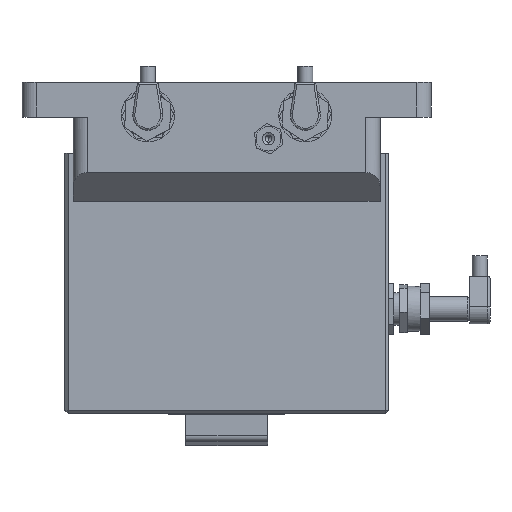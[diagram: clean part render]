
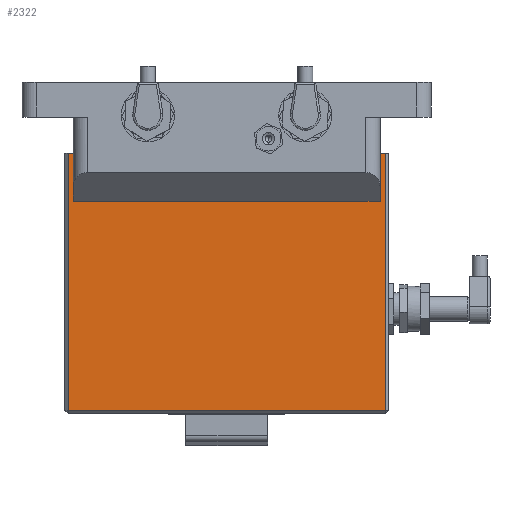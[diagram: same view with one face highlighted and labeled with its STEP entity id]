
A CAD part, front view. The second image highlights one B-rep face of the part: STEP entity #2322.
In plain terms, the highlighted planar face has unit normal (0, -1, 0).
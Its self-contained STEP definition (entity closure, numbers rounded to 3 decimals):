
#258 = VERTEX_POINT ( 'NONE', #9209 ) ;
#262 = VERTEX_POINT ( 'NONE', #9213 ) ;
#263 = VERTEX_POINT ( 'NONE', #9214 ) ;
#265 = VERTEX_POINT ( 'NONE', #9216 ) ;
#613 = EDGE_LOOP ( 'NONE', ( #9860, #9861, #9862, #9863, #9864, #9865, #9866, #9867 ) ) ;
#1340 = LINE ( 'NONE', #2597, #1343 ) ;
#1343 = VECTOR ( 'NONE', #2599, 1000. ) ;
#1368 = LINE ( 'NONE', #2625, #1371 ) ;
#1371 = VECTOR ( 'NONE', #2626, 1000. ) ;
#1549 = EDGE_CURVE ( 'NONE', #11739, #11773, #1340, .T. ) ;
#1563 = EDGE_CURVE ( 'NONE', #11782, #11794, #1368, .T. ) ;
#1577 = EDGE_CURVE ( 'NONE', #11794, #11739, #3341, .T. ) ;
#2085 = AXIS2_PLACEMENT_3D ( 'NONE', #4635, #4639, #4640 ) ;
#2322 = ADVANCED_FACE ( 'NONE', ( #3710 ), #4637, .F. ) ;
#2597 = CARTESIAN_POINT ( 'NONE',  ( -75., -31., -49.5 ) ) ;
#2599 = DIRECTION ( 'NONE',  ( 0., 0., 1. ) ) ;
#2625 = CARTESIAN_POINT ( 'NONE',  ( 75., -31., -49.5 ) ) ;
#2626 = DIRECTION ( 'NONE',  ( 0., 0., -1. ) ) ;
#2653 = CARTESIAN_POINT ( 'NONE',  ( -150., -31., -26.5 ) ) ;
#2654 = DIRECTION ( 'NONE',  ( -1., 0., 0. ) ) ;
#3341 = LINE ( 'NONE', #2653, #3342 ) ;
#3342 = VECTOR ( 'NONE', #2654, 1000. ) ;
#3710 = FACE_OUTER_BOUND ( 'NONE', #613, .T. ) ;
#3780 = VECTOR ( 'NONE', #4790, 1000. ) ;
#3784 = LINE ( 'NONE', #4785, #3788 ) ;
#3786 = LINE ( 'NONE', #4789, #3780 ) ;
#3787 = LINE ( 'NONE', #4792, #3790 ) ;
#3788 = VECTOR ( 'NONE', #4791, 1000. ) ;
#3790 = VECTOR ( 'NONE', #4793, 1000. ) ;
#3792 = LINE ( 'NONE', #4800, #3795 ) ;
#3795 = VECTOR ( 'NONE', #4801, 1000. ) ;
#3798 = LINE ( 'NONE', #4806, #3801 ) ;
#3801 = VECTOR ( 'NONE', #4807, 1000. ) ;
#4635 = CARTESIAN_POINT ( 'NONE',  ( 79., -31., -153.5 ) ) ;
#4637 = PLANE ( 'NONE',  #2085 ) ;
#4639 = DIRECTION ( 'NONE',  ( 0., 1., 0. ) ) ;
#4640 = DIRECTION ( 'NONE',  ( -1., 0., 0. ) ) ;
#4785 = CARTESIAN_POINT ( 'NONE',  ( -77.5, -31., -153.5 ) ) ;
#4789 = CARTESIAN_POINT ( 'NONE',  ( 77.5, -31., -153.5 ) ) ;
#4790 = DIRECTION ( 'NONE',  ( 0., 0., 1. ) ) ;
#4791 = DIRECTION ( 'NONE',  ( 0., 0., -1. ) ) ;
#4792 = CARTESIAN_POINT ( 'NONE',  ( 79., -31., -152. ) ) ;
#4793 = DIRECTION ( 'NONE',  ( 1., 0., 0. ) ) ;
#4800 = CARTESIAN_POINT ( 'NONE',  ( 79., -31., -26. ) ) ;
#4801 = DIRECTION ( 'NONE',  ( -1., 0., 0. ) ) ;
#4806 = CARTESIAN_POINT ( 'NONE',  ( 79., -31., -26. ) ) ;
#4807 = DIRECTION ( 'NONE',  ( -1., 0., 0. ) ) ;
#7027 = EDGE_CURVE ( 'NONE', #263, #262, #3786, .T. ) ;
#7028 = EDGE_CURVE ( 'NONE', #258, #265, #3784, .T. ) ;
#7029 = EDGE_CURVE ( 'NONE', #265, #263, #3787, .T. ) ;
#7032 = EDGE_CURVE ( 'NONE', #11773, #258, #3792, .T. ) ;
#7035 = EDGE_CURVE ( 'NONE', #262, #11782, #3798, .T. ) ;
#8346 = CARTESIAN_POINT ( 'NONE',  ( -75., -31., -26.5 ) ) ;
#8380 = CARTESIAN_POINT ( 'NONE',  ( -75., -31., -26. ) ) ;
#8389 = CARTESIAN_POINT ( 'NONE',  ( 75., -31., -26. ) ) ;
#8401 = CARTESIAN_POINT ( 'NONE',  ( 75., -31., -26.5 ) ) ;
#9209 = CARTESIAN_POINT ( 'NONE',  ( -77.5, -31., -26. ) ) ;
#9213 = CARTESIAN_POINT ( 'NONE',  ( 77.5, -31., -26. ) ) ;
#9214 = CARTESIAN_POINT ( 'NONE',  ( 77.5, -31., -152. ) ) ;
#9216 = CARTESIAN_POINT ( 'NONE',  ( -77.5, -31., -152. ) ) ;
#9860 = ORIENTED_EDGE ( 'NONE', *, *, #7029, .T. ) ;
#9861 = ORIENTED_EDGE ( 'NONE', *, *, #7027, .T. ) ;
#9862 = ORIENTED_EDGE ( 'NONE', *, *, #7035, .T. ) ;
#9863 = ORIENTED_EDGE ( 'NONE', *, *, #1563, .T. ) ;
#9864 = ORIENTED_EDGE ( 'NONE', *, *, #1577, .T. ) ;
#9865 = ORIENTED_EDGE ( 'NONE', *, *, #1549, .T. ) ;
#9866 = ORIENTED_EDGE ( 'NONE', *, *, #7032, .T. ) ;
#9867 = ORIENTED_EDGE ( 'NONE', *, *, #7028, .T. ) ;
#11739 = VERTEX_POINT ( 'NONE', #8346 ) ;
#11773 = VERTEX_POINT ( 'NONE', #8380 ) ;
#11782 = VERTEX_POINT ( 'NONE', #8389 ) ;
#11794 = VERTEX_POINT ( 'NONE', #8401 ) ;
